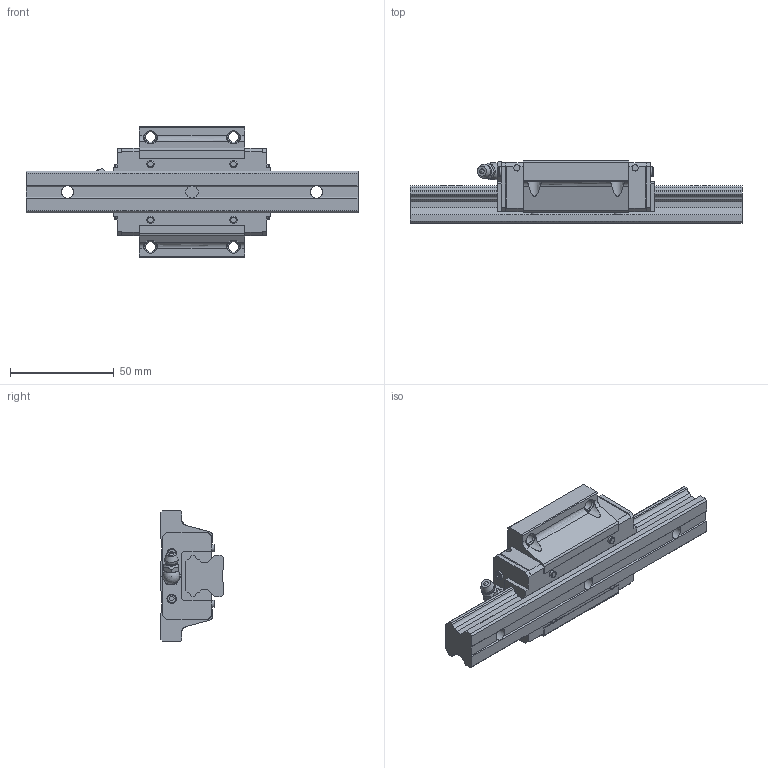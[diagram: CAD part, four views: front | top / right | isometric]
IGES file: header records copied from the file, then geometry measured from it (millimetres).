
Start section: Data from Parasolid IGES Translator 26.0.171, Copyright(c) 2006 Siemens PLM Software. All Rights Reserved.
Global section: file name: HSR20M1A1SS-160L_G20_0_B-M6F_42_0_0_0_1.igs; native system: By Siemens PLM Incorporated; preprocessor: XPlus GENERIC/IGES 26.0.171; author: Noname; organization: Noname; date: 20240523.060907; units: millimetre
Bounding box: 160 x 30 x 63 mm (x, y, z)
Surface area: 31738.2 mm2 (no closed solid volume)
Topology: 0 solids, 0 shells, 287 faces, 1550 edges, 1484 vertices
Faces by surface type: extrusion 204, revolution 83
